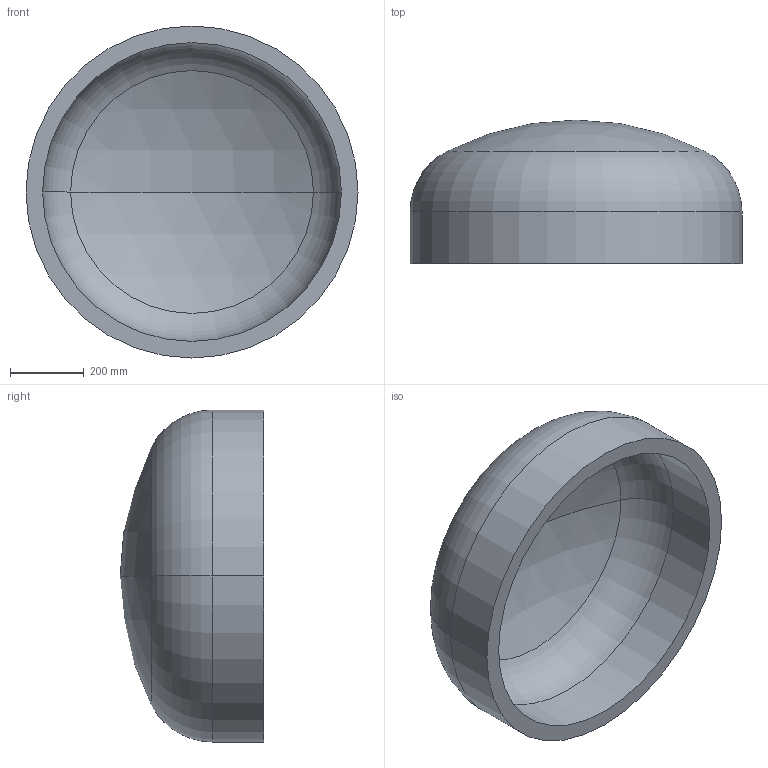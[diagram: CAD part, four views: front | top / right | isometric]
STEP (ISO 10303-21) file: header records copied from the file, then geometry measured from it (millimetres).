
FILE_DESCRIPTION (( 'STEP AP203' ), '1' );
FILE_NAME ('DIN 28013 Korbbogenform_-_Boden DIN 28013 - 900 x 140 - I - s=45.step', '2016-07-01T08:32:12', ( '' ), ( '' ), 'SwSTEP 2.0', 'SolidWorks 2013', '' );
FILE_SCHEMA (( 'CONFIG_CONTROL_DESIGN' ));
Length unit declared in the file: millimetre
Products named in the file (1): DIN 28013 Korbbogenform_-_Boden DIN 28013 - 900 x 140 - I - s=45
Bounding box: 900 x 389.08 x 900 mm (x, y, z)
Volume: 54180724.2 mm3; surface area: 2533145.6 mm2
Topology: 1 solids, 1 shells, 13 faces, 24 edges, 14 vertices
Faces by surface type: torus 4, cylinder 4, sphere 4, plane 1
Entity records: 407 total; most frequent: DIRECTION 72, CARTESIAN_POINT 52, ORIENTED_EDGE 48, AXIS2_PLACEMENT_3D 34, EDGE_CURVE 24, CIRCLE 20, VERTEX_POINT 14, EDGE_LOOP 14
